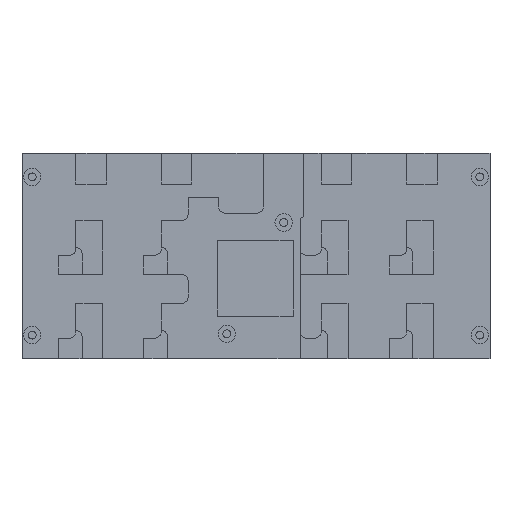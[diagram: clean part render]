
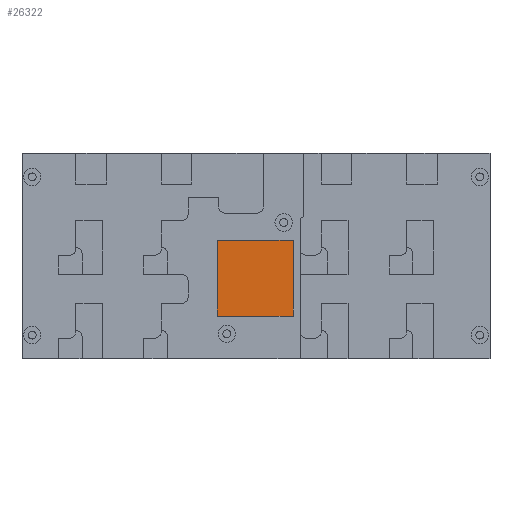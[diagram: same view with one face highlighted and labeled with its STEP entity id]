
A CAD part, front view. The second image highlights one B-rep face of the part: STEP entity #26322.
In plain terms, the highlighted planar face has unit normal (0, -1, 0).
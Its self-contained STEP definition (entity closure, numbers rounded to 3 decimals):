
#17073=DIRECTION('',(-1.,0.,0.));
#17074=VECTOR('',#17073,24.);
#17075=CARTESIAN_POINT('',(11.75,-2.65,7.65));
#17076=LINE('',#17075,#17074);
#17080=DIRECTION('',(0.,0.,1.));
#17081=VECTOR('',#17080,24.);
#17082=CARTESIAN_POINT('',(11.75,-2.65,-16.35));
#17083=LINE('',#17082,#17081);
#17087=DIRECTION('',(1.,0.,0.));
#17088=VECTOR('',#17087,24.);
#17089=CARTESIAN_POINT('',(-12.25,-2.65,-16.35));
#17090=LINE('',#17089,#17088);
#17094=DIRECTION('',(0.,0.,-1.));
#17095=VECTOR('',#17094,24.);
#17096=CARTESIAN_POINT('',(-12.25,-2.65,7.65));
#17097=LINE('',#17096,#17095);
#20095=CARTESIAN_POINT('',(11.75,-2.65,7.65));
#20096=VERTEX_POINT('',#20095);
#20097=CARTESIAN_POINT('',(-12.25,-2.65,7.65));
#20098=VERTEX_POINT('',#20097);
#20099=CARTESIAN_POINT('',(11.75,-2.65,-16.35));
#20100=VERTEX_POINT('',#20099);
#20101=CARTESIAN_POINT('',(-12.25,-2.65,-16.35));
#20102=VERTEX_POINT('',#20101);
#26311=CARTESIAN_POINT('',(-0.25,-2.65,-4.35));
#26312=DIRECTION('',(0.,1.,0.));
#26313=DIRECTION('',(-1.,0.,0.));
#26314=AXIS2_PLACEMENT_3D('',#26311,#26312,#26313);
#26315=PLANE('',#26314);
#26316=ORIENTED_EDGE('',*,*,#26263,.F.);
#26317=ORIENTED_EDGE('',*,*,#26278,.F.);
#26318=ORIENTED_EDGE('',*,*,#26292,.F.);
#26319=ORIENTED_EDGE('',*,*,#26305,.F.);
#26320=EDGE_LOOP('',(#26316,#26317,#26318,#26319));
#26321=FACE_OUTER_BOUND('',#26320,.F.);
#26263=EDGE_CURVE('',#20096,#20098,#17076,.T.);
#26278=EDGE_CURVE('',#20100,#20096,#17083,.T.);
#26292=EDGE_CURVE('',#20102,#20100,#17090,.T.);
#26305=EDGE_CURVE('',#20098,#20102,#17097,.T.);
#26322=ADVANCED_FACE('',(#26321),#26315,.F.);
